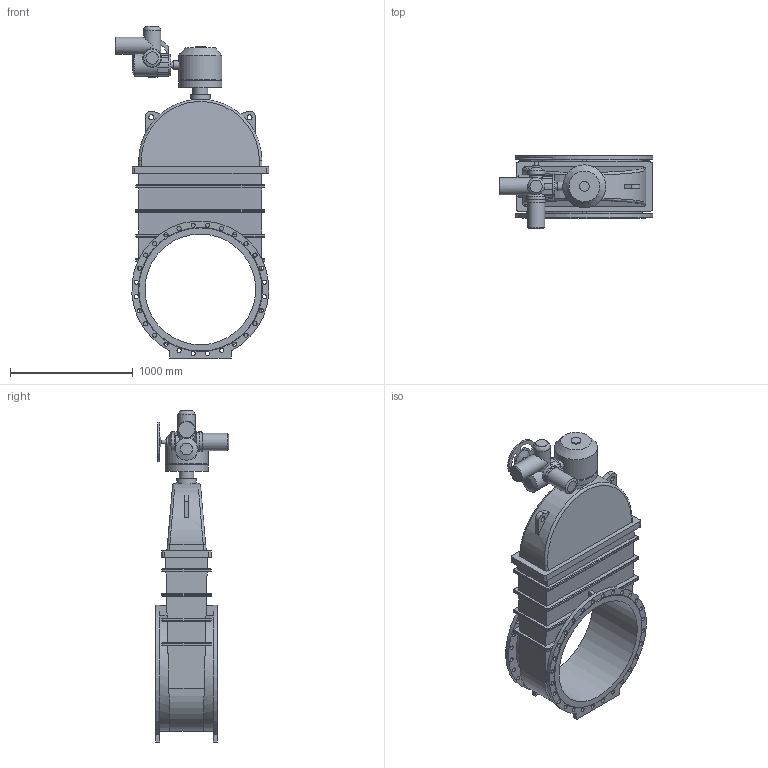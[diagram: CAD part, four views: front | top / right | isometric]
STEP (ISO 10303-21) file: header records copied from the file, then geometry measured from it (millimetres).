
FILE_DESCRIPTION(('STEP AP203'), '1');
FILE_NAME('Çàäâèæêà 47GV.Z DN900 PN10 + ðåäóêòîð+ÌÒ903.À30', '', ('UNSPECIFIED'), ('UNSPECIFIED'), 'ASCON STEP Converter 1.6', 'ASCON Math Kernel', '');
FILE_SCHEMA(('CONFIG_CONTROL_DESIGN'));
Length unit declared in the file: millimetre
Bounding box: 1248.15 x 599 x 2699.5 mm (x, y, z)
Volume: 468239881.6 mm3; surface area: 9470662.6 mm2
Topology: 1 solids, 1 shells, 361 faces, 899 edges, 572 vertices
Faces by surface type: cylinder 175, plane 139, bspline 34, cone 12, torus 1
Full cylindrical faces by diameter (mm): 14 x4, 18 x4, 32 x1, 34 x56, 40 x2, 50 x1, 60 x1, 70 x1, 80 x1, 100 x1, 120 x1, 140 x4, 147 x1, 151 x1, 160 x1, 175 x1, 330 x1, 350 x2, 900 x1
Entity records: 18053 total; most frequent: CARTESIAN_POINT 6894, DIRECTION 1619, ORIENTED_EDGE 1604, EDGE_CURVE 802, AXIS2_PLACEMENT_3D 632, EDGE_LOOP 614, VERTEX_POINT 572, FACE_BOUND 425
